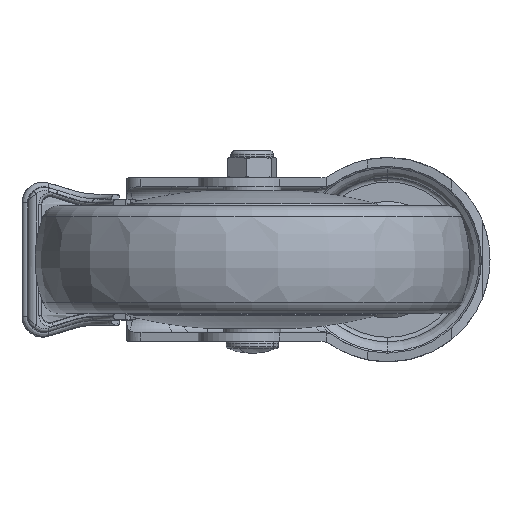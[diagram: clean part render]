
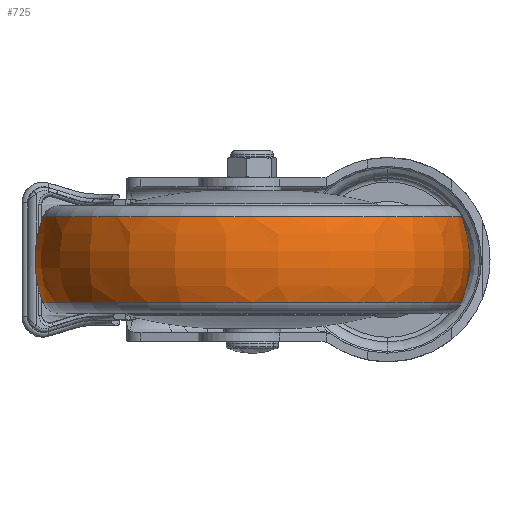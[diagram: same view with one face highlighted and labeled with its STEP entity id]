
A CAD part, front view. The second image highlights one B-rep face of the part: STEP entity #725.
In plain terms, the highlighted toroidal (fillet/blend) face has major radius 28.5 mm and minor radius 34 mm.
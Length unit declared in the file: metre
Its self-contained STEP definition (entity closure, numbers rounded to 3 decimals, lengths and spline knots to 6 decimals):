
#725 = ADVANCED_FACE ( 'NONE', ( #33058 ), #12691, .T. ) ;
#909 = CIRCLE ( 'NONE', #15076, 0.034 ) ;
#2301 = DIRECTION ( 'NONE',  ( 0., 0., -1. ) ) ;
#2525 = DIRECTION ( 'NONE',  ( 0., 0., -1. ) ) ;
#3116 = ORIENTED_EDGE ( 'NONE', *, *, #23857, .F. ) ;
#3120 = CIRCLE ( 'NONE', #30307, 0.034 ) ;
#4552 = CIRCLE ( 'NONE', #35925, 0.060193 ) ;
#4868 = VERTEX_POINT ( 'NONE', #32292 ) ;
#5003 = CIRCLE ( 'NONE', #13848, 0.060193 ) ;
#6101 = EDGE_CURVE ( 'NONE', #15539, #19393, #3120, .T. ) ;
#7002 = DIRECTION ( 'NONE',  ( -1., 0., 0. ) ) ;
#8028 = EDGE_LOOP ( 'NONE', ( #32627, #11298, #10011, #3116 ) ) ;
#9716 = DIRECTION ( 'NONE',  ( 0., 0., -1. ) ) ;
#10011 = ORIENTED_EDGE ( 'NONE', *, *, #6101, .T. ) ;
#11298 = ORIENTED_EDGE ( 'NONE', *, *, #16505, .T. ) ;
#11424 = VERTEX_POINT ( 'NONE', #26778 ) ;
#12316 = CARTESIAN_POINT ( 'NONE',  ( -0.0675, -0.095826, 0. ) ) ;
#12691 = TOROIDAL_SURFACE ( 'NONE', #18610, 0.0285, 0.034 ) ;
#13746 = DIRECTION ( 'NONE',  ( -1., 0., 0. ) ) ;
#13848 = AXIS2_PLACEMENT_3D ( 'NONE', #27505, #2525, #18970 ) ;
#14059 = CARTESIAN_POINT ( 'NONE',  ( -0.099193, -0.095826, 0.01231 ) ) ;
#15076 = AXIS2_PLACEMENT_3D ( 'NONE', #29570, #18265, #7002 ) ;
#15539 = VERTEX_POINT ( 'NONE', #14059 ) ;
#16505 = EDGE_CURVE ( 'NONE', #11424, #15539, #4552, .T. ) ;
#16520 = DIRECTION ( 'NONE',  ( -1., 0., 0. ) ) ;
#18265 = DIRECTION ( 'NONE',  ( 0., 1., 0. ) ) ;
#18610 = AXIS2_PLACEMENT_3D ( 'NONE', #33417, #27110, #13746 ) ;
#18970 = DIRECTION ( 'NONE',  ( -1., 0., 0. ) ) ;
#19393 = VERTEX_POINT ( 'NONE', #20007 ) ;
#19721 = EDGE_CURVE ( 'NONE', #11424, #4868, #909, .T. ) ;
#20007 = CARTESIAN_POINT ( 'NONE',  ( -0.099193, -0.095826, -0.01231 ) ) ;
#22254 = CARTESIAN_POINT ( 'NONE',  ( -0.039, -0.095826, 0.01231 ) ) ;
#23857 = EDGE_CURVE ( 'NONE', #4868, #19393, #5003, .T. ) ;
#26778 = CARTESIAN_POINT ( 'NONE',  ( 0.021193, -0.095826, 0.01231 ) ) ;
#26939 = DIRECTION ( 'NONE',  ( 0., -1., 0. ) ) ;
#27110 = DIRECTION ( 'NONE',  ( 0., 0., -1. ) ) ;
#27505 = CARTESIAN_POINT ( 'NONE',  ( -0.039, -0.095826, -0.01231 ) ) ;
#29570 = CARTESIAN_POINT ( 'NONE',  ( -0.0105, -0.095826, 0. ) ) ;
#30307 = AXIS2_PLACEMENT_3D ( 'NONE', #12316, #26939, #9716 ) ;
#32292 = CARTESIAN_POINT ( 'NONE',  ( 0.021193, -0.095826, -0.01231 ) ) ;
#32627 = ORIENTED_EDGE ( 'NONE', *, *, #19721, .F. ) ;
#33058 = FACE_OUTER_BOUND ( 'NONE', #8028, .T. ) ;
#33417 = CARTESIAN_POINT ( 'NONE',  ( -0.039, -0.095826, 0. ) ) ;
#35925 = AXIS2_PLACEMENT_3D ( 'NONE', #22254, #2301, #16520 ) ;
